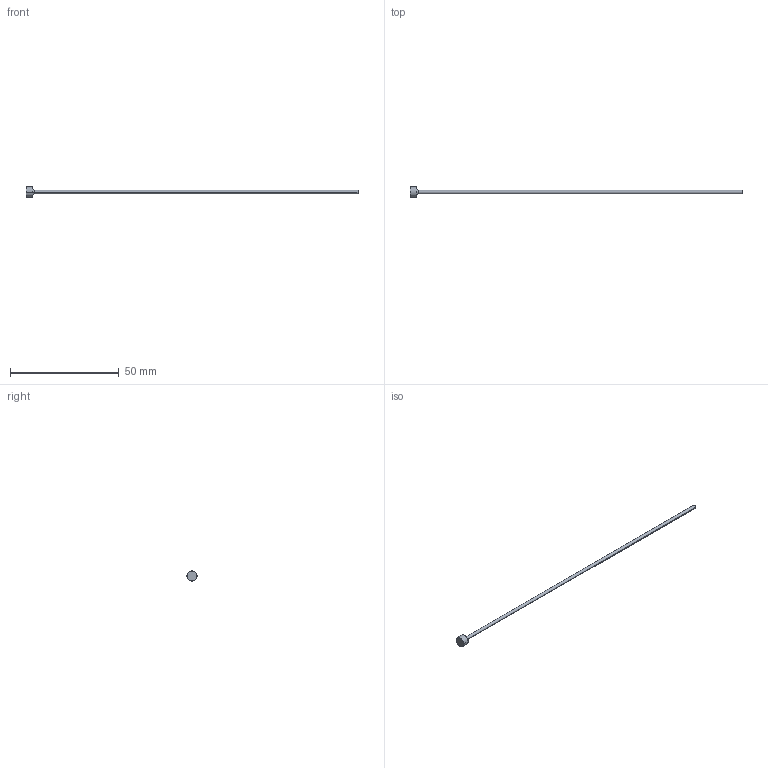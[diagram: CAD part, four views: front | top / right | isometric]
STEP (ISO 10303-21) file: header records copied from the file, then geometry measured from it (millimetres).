
FILE_DESCRIPTION (( 'STEP AP214' ), '1' );
FILE_NAME ('P5-6.STEP', '2020-03-11T15:37:30', ( '' ), ( '' ), 'SwSTEP 2.0', 'SolidWorks 2018', '' );
FILE_SCHEMA (( 'AUTOMOTIVE_DESIGN' ));
Length unit declared in the file: inch
Products named in the file (1): P5-6
Bounding box: 152.4 x 4.76 x 4.76 mm (x, y, z)
Volume: 349.7 mm3; surface area: 820.6 mm2
Topology: 1 solids, 1 shells, 13 faces, 24 edges, 14 vertices
Faces by surface type: cone 4, cylinder 4, plane 3, torus 2
Entity records: 366 total; most frequent: DIRECTION 68, CARTESIAN_POINT 52, ORIENTED_EDGE 48, AXIS2_PLACEMENT_3D 30, EDGE_CURVE 24, CIRCLE 16, VERTEX_POINT 14, EDGE_LOOP 14
